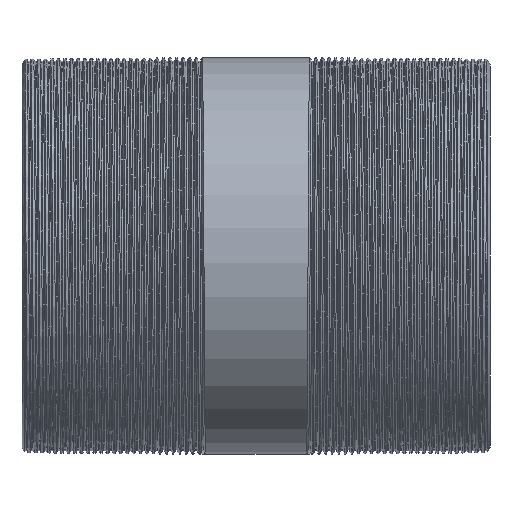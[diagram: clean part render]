
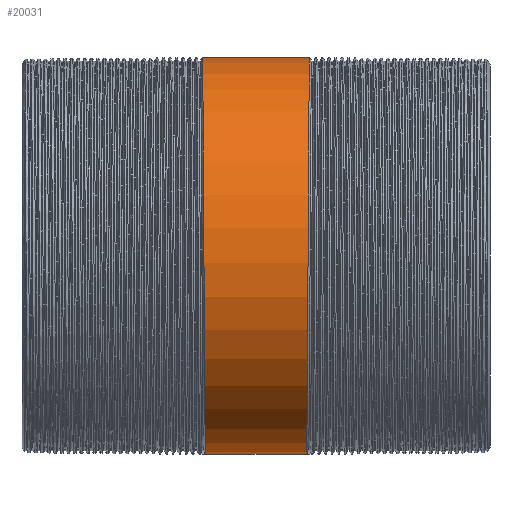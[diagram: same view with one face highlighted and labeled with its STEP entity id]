
A CAD part, front view. The second image highlights one B-rep face of the part: STEP entity #20031.
In plain terms, the highlighted cylindrical face has radius 21.2 mm (diameter 42.4 mm), a partial arc.
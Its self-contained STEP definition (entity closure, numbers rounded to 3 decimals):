
#411 = DIRECTION ( 'NONE',  ( 0., 0., 1. ) ) ;
#514 = DIRECTION ( 'NONE',  ( -1., 0., 0. ) ) ;
#615 = LINE ( 'NONE', #7161, #20560 ) ;
#717 = DIRECTION ( 'NONE',  ( -1., 0., 0. ) ) ;
#1930 = CARTESIAN_POINT ( 'NONE',  ( 5.738, 0., 21.2 ) ) ;
#2141 = CARTESIAN_POINT ( 'NONE',  ( 5.563, -24.48, 0. ) ) ;
#2938 = VERTEX_POINT ( 'NONE', #13968 ) ;
#3227 = CARTESIAN_POINT ( 'NONE',  ( 5.446, -12.24, -21.2 ) ) ;
#3643 = ORIENTED_EDGE ( 'NONE', *, *, #20880, .T. ) ;
#3699 = CARTESIAN_POINT ( 'NONE',  ( -5.504, -18.36, -10.6 ) ) ;
#4581 =( BOUNDED_CURVE ( )  B_SPLINE_CURVE ( 2, ( #17965, #3227, #9783, #2141, #13325, #18275, #1930 ),
 .UNSPECIFIED., .F., .T. ) 
 B_SPLINE_CURVE_WITH_KNOTS ( ( 3, 2, 2, 3 ),
 ( 0., 0.006, 0.011, 0.017 ),
 .UNSPECIFIED. ) 
 CURVE ( )  GEOMETRIC_REPRESENTATION_ITEM ( )  RATIONAL_B_SPLINE_CURVE ( ( 1., 0.866, 1., 0.866, 1., 0.866, 1. ) ) 
 REPRESENTATION_ITEM ( '' )  );
#4583 = CARTESIAN_POINT ( 'NONE',  ( 5.738, 0., 21.2 ) ) ;
#4628 = AXIS2_PLACEMENT_3D ( 'NONE', #7056, #514, #411 ) ;
#4975 = VERTEX_POINT ( 'NONE', #4583 ) ;
#4985 = VECTOR ( 'NONE', #20843, 1000. ) ;
#5002 = CARTESIAN_POINT ( 'NONE',  ( -5.446, -12.24, -21.2 ) ) ;
#5199 = EDGE_LOOP ( 'NONE', ( #15791, #12202, #3643, #5902 ) ) ;
#5200 = CARTESIAN_POINT ( 'NONE',  ( -5.563, -24.48, 0. ) ) ;
#5714 = CARTESIAN_POINT ( 'NONE',  ( -5.388, 0., -21.2 ) ) ;
#5902 = ORIENTED_EDGE ( 'NONE', *, *, #7405, .F. ) ;
#7056 = CARTESIAN_POINT ( 'NONE',  ( -149.494, 0., 0. ) ) ;
#7161 = CARTESIAN_POINT ( 'NONE',  ( -149.494, 0., -21.2 ) ) ;
#7405 = EDGE_CURVE ( 'NONE', #10175, #21073, #14894, .T. ) ;
#8640 = CARTESIAN_POINT ( 'NONE',  ( -5.621, -18.36, 10.6 ) ) ;
#9122 = CARTESIAN_POINT ( 'NONE',  ( -149.494, 0., 21.2 ) ) ;
#9783 = CARTESIAN_POINT ( 'NONE',  ( 5.504, -18.36, -10.6 ) ) ;
#10175 = VERTEX_POINT ( 'NONE', #5714 ) ;
#10734 = EDGE_CURVE ( 'NONE', #2938, #10175, #615, .T. ) ;
#11569 = CARTESIAN_POINT ( 'NONE',  ( -5.679, -12.24, 21.2 ) ) ;
#11903 = CYLINDRICAL_SURFACE ( 'NONE', #4628, 21.2 ) ;
#12202 = ORIENTED_EDGE ( 'NONE', *, *, #18358, .T. ) ;
#13325 = CARTESIAN_POINT ( 'NONE',  ( 5.621, -18.36, 10.6 ) ) ;
#13968 = CARTESIAN_POINT ( 'NONE',  ( 5.388, 0., -21.2 ) ) ;
#14894 =( BOUNDED_CURVE ( )  B_SPLINE_CURVE ( 2, ( #18324, #5002, #3699, #5200, #8640, #11569, #18122 ),
 .UNSPECIFIED., .F., .T. ) 
 B_SPLINE_CURVE_WITH_KNOTS ( ( 3, 2, 2, 3 ),
 ( 0., 0.006, 0.011, 0.017 ),
 .UNSPECIFIED. ) 
 CURVE ( )  GEOMETRIC_REPRESENTATION_ITEM ( )  RATIONAL_B_SPLINE_CURVE ( ( 1., 0.866, 1., 0.866, 1., 0.866, 1. ) ) 
 REPRESENTATION_ITEM ( '' )  );
#15453 = FACE_OUTER_BOUND ( 'NONE', #5199, .T. ) ;
#15791 = ORIENTED_EDGE ( 'NONE', *, *, #10734, .F. ) ;
#17306 = LINE ( 'NONE', #9122, #4985 ) ;
#17965 = CARTESIAN_POINT ( 'NONE',  ( 5.388, 0., -21.2 ) ) ;
#18122 = CARTESIAN_POINT ( 'NONE',  ( -5.738, 0., 21.2 ) ) ;
#18275 = CARTESIAN_POINT ( 'NONE',  ( 5.679, -12.24, 21.2 ) ) ;
#18324 = CARTESIAN_POINT ( 'NONE',  ( -5.388, 0., -21.2 ) ) ;
#18358 = EDGE_CURVE ( 'NONE', #2938, #4975, #4581, .T. ) ;
#20031 = ADVANCED_FACE ( 'NONE', ( #15453 ), #11903, .T. ) ;
#20423 = CARTESIAN_POINT ( 'NONE',  ( -5.738, 0., 21.2 ) ) ;
#20560 = VECTOR ( 'NONE', #717, 1000. ) ;
#20843 = DIRECTION ( 'NONE',  ( -1., 0., 0. ) ) ;
#20880 = EDGE_CURVE ( 'NONE', #4975, #21073, #17306, .T. ) ;
#21073 = VERTEX_POINT ( 'NONE', #20423 ) ;
